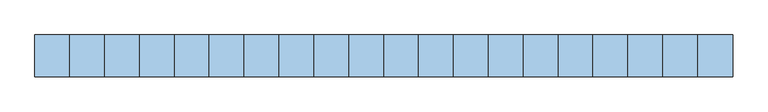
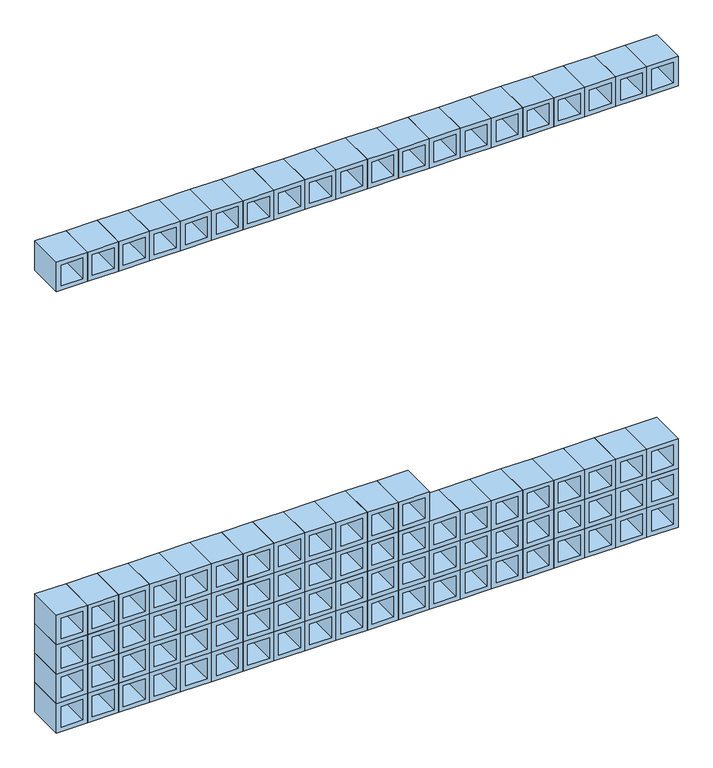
"""IFC4 building model written with IfcOpenShell, lengths in millimetres: window geometry, Concrete_Cobog_Hollow_block_14694 : Cobogó 2,00 x 1,60 m."""

from ifc_helpers import new_model, si_unit, frame, origin, place, context, project, spatial, polyline, outline, extrude, source, transform, mapped, element, save


def window_1a4b773a(model_context):
    return source(origin(), model_context, "Body", "SweptSolid", [
        extrude(outline(polyline([(1100.0, 200.0), (1200.0, 200.0), (1200.0, 100.0), (1100.0, 100.0), (1100.0, 200.0)]), holes=[polyline([(1185.0, 115.0), (1185.0, 185.0), (1115.0, 185.0), (1115.0, 115.0), (1185.0, 115.0)])]), frame((0.0, -60.0, 0.0), z_axis=(0.0, 1.0, 0.0), x_axis=(0.0, 0.0, 1.0)), (0.0, 0.0, 1.0), 120.0),
        extrude(outline(polyline([(1100.0, 100.0), (1200.0, 100.0), (1200.0, 0.0), (1100.0, 0.0), (1100.0, 100.0)]), holes=[polyline([(1185.0, 15.0), (1185.0, 85.0), (1115.0, 85.0), (1115.0, 15.0), (1185.0, 15.0)])]), frame((0.0, -60.0, 0.0), z_axis=(0.0, 1.0, 0.0), x_axis=(0.0, 0.0, 1.0)), (0.0, 0.0, 1.0), 120.0),
        extrude(outline(polyline([(1100.0, 0.0), (1200.0, 0.0), (1200.0, -100.0), (1100.0, -100.0), (1100.0, 0.0)]), holes=[polyline([(1185.0, -85.0), (1185.0, -15.0), (1115.0, -15.0), (1115.0, -85.0), (1185.0, -85.0)])]), frame((0.0, -60.0, 0.0), z_axis=(0.0, 1.0, 0.0), x_axis=(0.0, 0.0, 1.0)), (0.0, 0.0, 1.0), 120.0),
        extrude(outline(polyline([(1100.0, -100.0), (1200.0, -100.0), (1200.0, -200.0), (1100.0, -200.0), (1100.0, -100.0)]), holes=[polyline([(1185.0, -185.0), (1185.0, -115.0), (1115.0, -115.0), (1115.0, -185.0), (1185.0, -185.0)])]), frame((0.0, -60.0, 0.0), z_axis=(0.0, 1.0, 0.0), x_axis=(0.0, 0.0, 1.0)), (0.0, 0.0, 1.0), 120.0),
        extrude(outline(polyline([(1100.0, -200.0), (1200.0, -200.0), (1200.0, -300.0), (1100.0, -300.0), (1100.0, -200.0)]), holes=[polyline([(1185.0, -285.0), (1185.0, -215.0), (1115.0, -215.0), (1115.0, -285.0), (1185.0, -285.0)])]), frame((0.0, -60.0, 0.0), z_axis=(0.0, 1.0, 0.0), x_axis=(0.0, 0.0, 1.0)), (0.0, 0.0, 1.0), 120.0),
        extrude(outline(polyline([(1100.0, -300.0), (1200.0, -300.0), (1200.0, -400.0), (1100.0, -400.0), (1100.0, -300.0)]), holes=[polyline([(1185.0, -385.0), (1185.0, -315.0), (1115.0, -315.0), (1115.0, -385.0), (1185.0, -385.0)])]), frame((0.0, -60.0, 0.0), z_axis=(0.0, 1.0, 0.0), x_axis=(0.0, 0.0, 1.0)), (0.0, 0.0, 1.0), 120.0),
        extrude(outline(polyline([(1100.0, -400.0), (1200.0, -400.0), (1200.0, -500.0), (1100.0, -500.0), (1100.0, -400.0)]), holes=[polyline([(1185.0, -485.0), (1185.0, -415.0), (1115.0, -415.0), (1115.0, -485.0), (1185.0, -485.0)])]), frame((0.0, -60.0, 0.0), z_axis=(0.0, 1.0, 0.0), x_axis=(0.0, 0.0, 1.0)), (0.0, 0.0, 1.0), 120.0),
        extrude(outline(polyline([(1100.0, -500.0), (1200.0, -500.0), (1200.0, -600.0), (1100.0, -600.0), (1100.0, -500.0)]), holes=[polyline([(1185.0, -585.0), (1185.0, -515.0), (1115.0, -515.0), (1115.0, -585.0), (1185.0, -585.0)])]), frame((0.0, -60.0, 0.0), z_axis=(0.0, 1.0, 0.0), x_axis=(0.0, 0.0, 1.0)), (0.0, 0.0, 1.0), 120.0),
        extrude(outline(polyline([(1100.0, -600.0), (1200.0, -600.0), (1200.0, -700.0), (1100.0, -700.0), (1100.0, -600.0)]), holes=[polyline([(1185.0, -685.0), (1185.0, -615.0), (1115.0, -615.0), (1115.0, -685.0), (1185.0, -685.0)])]), frame((0.0, -60.0, 0.0), z_axis=(0.0, 1.0, 0.0), x_axis=(0.0, 0.0, 1.0)), (0.0, 0.0, 1.0), 120.0),
        extrude(outline(polyline([(1100.0, -700.0), (1200.0, -700.0), (1200.0, -800.0), (1100.0, -800.0), (1100.0, -700.0)]), holes=[polyline([(1185.0, -785.0), (1185.0, -715.0), (1115.0, -715.0), (1115.0, -785.0), (1185.0, -785.0)])]), frame((0.0, -60.0, 0.0), z_axis=(0.0, 1.0, 0.0), x_axis=(0.0, 0.0, 1.0)), (0.0, 0.0, 1.0), 120.0),
        extrude(outline(polyline([(1100.0, -800.0), (1200.0, -800.0), (1200.0, -900.0), (1100.0, -900.0), (1100.0, -800.0)]), holes=[polyline([(1185.0, -885.0), (1185.0, -815.0), (1115.0, -815.0), (1115.0, -885.0), (1185.0, -885.0)])]), frame((0.0, -60.0, 0.0), z_axis=(0.0, 1.0, 0.0), x_axis=(0.0, 0.0, 1.0)), (0.0, 0.0, 1.0), 120.0),
        extrude(outline(polyline([(1100.0, -900.0), (1200.0, -900.0), (1200.0, -1000.0), (1100.0, -1000.0), (1100.0, -900.0)]), holes=[polyline([(1185.0, -985.0), (1185.0, -915.0), (1115.0, -915.0), (1115.0, -985.0), (1185.0, -985.0)])]), frame((0.0, -60.0, 0.0), z_axis=(0.0, 1.0, 0.0), x_axis=(0.0, 0.0, 1.0)), (0.0, 0.0, 1.0), 120.0),
        extrude(outline(polyline([(1000.0, 1000.0), (1100.0, 1000.0), (1100.0, 900.0), (1000.0, 900.0), (1000.0, 1000.0)]), holes=[polyline([(1085.0, 915.0), (1085.0, 985.0), (1015.0, 985.0), (1015.0, 915.0), (1085.0, 915.0)])]), frame((0.0, -60.0, 0.0), z_axis=(0.0, 1.0, 0.0), x_axis=(0.0, 0.0, 1.0)), (0.0, 0.0, 1.0), 120.0),
        extrude(outline(polyline([(1000.0, 900.0), (1100.0, 900.0), (1100.0, 800.0), (1000.0, 800.0), (1000.0, 900.0)]), holes=[polyline([(1085.0, 815.0), (1085.0, 885.0), (1015.0, 885.0), (1015.0, 815.0), (1085.0, 815.0)])]), frame((0.0, -60.0, 0.0), z_axis=(0.0, 1.0, 0.0), x_axis=(0.0, 0.0, 1.0)), (0.0, 0.0, 1.0), 120.0),
        extrude(outline(polyline([(1000.0, 800.0), (1100.0, 800.0), (1100.0, 700.0), (1000.0, 700.0), (1000.0, 800.0)]), holes=[polyline([(1085.0, 715.0), (1085.0, 785.0), (1015.0, 785.0), (1015.0, 715.0), (1085.0, 715.0)])]), frame((0.0, -60.0, 0.0), z_axis=(0.0, 1.0, 0.0), x_axis=(0.0, 0.0, 1.0)), (0.0, 0.0, 1.0), 120.0),
        extrude(outline(polyline([(1000.0, 700.0), (1100.0, 700.0), (1100.0, 600.0), (1000.0, 600.0), (1000.0, 700.0)]), holes=[polyline([(1085.0, 615.0), (1085.0, 685.0), (1015.0, 685.0), (1015.0, 615.0), (1085.0, 615.0)])]), frame((0.0, -60.0, 0.0), z_axis=(0.0, 1.0, 0.0), x_axis=(0.0, 0.0, 1.0)), (0.0, 0.0, 1.0), 120.0),
        extrude(outline(polyline([(1000.0, 600.0), (1100.0, 600.0), (1100.0, 500.0), (1000.0, 500.0), (1000.0, 600.0)]), holes=[polyline([(1085.0, 515.0), (1085.0, 585.0), (1015.0, 585.0), (1015.0, 515.0), (1085.0, 515.0)])]), frame((0.0, -60.0, 0.0), z_axis=(0.0, 1.0, 0.0), x_axis=(0.0, 0.0, 1.0)), (0.0, 0.0, 1.0), 120.0),
        extrude(outline(polyline([(1000.0, 500.0), (1100.0, 500.0), (1100.0, 400.0), (1000.0, 400.0), (1000.0, 500.0)]), holes=[polyline([(1085.0, 415.0), (1085.0, 485.0), (1015.0, 485.0), (1015.0, 415.0), (1085.0, 415.0)])]), frame((0.0, -60.0, 0.0), z_axis=(0.0, 1.0, 0.0), x_axis=(0.0, 0.0, 1.0)), (0.0, 0.0, 1.0), 120.0),
        extrude(outline(polyline([(1000.0, 400.0), (1100.0, 400.0), (1100.0, 300.0), (1000.0, 300.0), (1000.0, 400.0)]), holes=[polyline([(1085.0, 315.0), (1085.0, 385.0), (1015.0, 385.0), (1015.0, 315.0), (1085.0, 315.0)])]), frame((0.0, -60.0, 0.0), z_axis=(0.0, 1.0, 0.0), x_axis=(0.0, 0.0, 1.0)), (0.0, 0.0, 1.0), 120.0),
        extrude(outline(polyline([(1000.0, 300.0), (1100.0, 300.0), (1100.0, 200.0), (1000.0, 200.0), (1000.0, 300.0)]), holes=[polyline([(1085.0, 215.0), (1085.0, 285.0), (1015.0, 285.0), (1015.0, 215.0), (1085.0, 215.0)])]), frame((0.0, -60.0, 0.0), z_axis=(0.0, 1.0, 0.0), x_axis=(0.0, 0.0, 1.0)), (0.0, 0.0, 1.0), 120.0),
        extrude(outline(polyline([(1000.0, 200.0), (1100.0, 200.0), (1100.0, 100.0), (1000.0, 100.0), (1000.0, 200.0)]), holes=[polyline([(1085.0, 115.0), (1085.0, 185.0), (1015.0, 185.0), (1015.0, 115.0), (1085.0, 115.0)])]), frame((0.0, -60.0, 0.0), z_axis=(0.0, 1.0, 0.0), x_axis=(0.0, 0.0, 1.0)), (0.0, 0.0, 1.0), 120.0),
        extrude(outline(polyline([(1000.0, 100.0), (1100.0, 100.0), (1100.0, 0.0), (1000.0, 0.0), (1000.0, 100.0)]), holes=[polyline([(1085.0, 15.0), (1085.0, 85.0), (1015.0, 85.0), (1015.0, 15.0), (1085.0, 15.0)])]), frame((0.0, -60.0, 0.0), z_axis=(0.0, 1.0, 0.0), x_axis=(0.0, 0.0, 1.0)), (0.0, 0.0, 1.0), 120.0),
        extrude(outline(polyline([(1000.0, 0.0), (1100.0, 0.0), (1100.0, -100.0), (1000.0, -100.0), (1000.0, 0.0)]), holes=[polyline([(1085.0, -85.0), (1085.0, -15.0), (1015.0, -15.0), (1015.0, -85.0), (1085.0, -85.0)])]), frame((0.0, -60.0, 0.0), z_axis=(0.0, 1.0, 0.0), x_axis=(0.0, 0.0, 1.0)), (0.0, 0.0, 1.0), 120.0),
        extrude(outline(polyline([(1000.0, -100.0), (1100.0, -100.0), (1100.0, -200.0), (1000.0, -200.0), (1000.0, -100.0)]), holes=[polyline([(1085.0, -185.0), (1085.0, -115.0), (1015.0, -115.0), (1015.0, -185.0), (1085.0, -185.0)])]), frame((0.0, -60.0, 0.0), z_axis=(0.0, 1.0, 0.0), x_axis=(0.0, 0.0, 1.0)), (0.0, 0.0, 1.0), 120.0),
        extrude(outline(polyline([(1000.0, -200.0), (1100.0, -200.0), (1100.0, -300.0), (1000.0, -300.0), (1000.0, -200.0)]), holes=[polyline([(1085.0, -285.0), (1085.0, -215.0), (1015.0, -215.0), (1015.0, -285.0), (1085.0, -285.0)])]), frame((0.0, -60.0, 0.0), z_axis=(0.0, 1.0, 0.0), x_axis=(0.0, 0.0, 1.0)), (0.0, 0.0, 1.0), 120.0),
        extrude(outline(polyline([(1000.0, -300.0), (1100.0, -300.0), (1100.0, -400.0), (1000.0, -400.0), (1000.0, -300.0)]), holes=[polyline([(1085.0, -385.0), (1085.0, -315.0), (1015.0, -315.0), (1015.0, -385.0), (1085.0, -385.0)])]), frame((0.0, -60.0, 0.0), z_axis=(0.0, 1.0, 0.0), x_axis=(0.0, 0.0, 1.0)), (0.0, 0.0, 1.0), 120.0),
        extrude(outline(polyline([(1000.0, -400.0), (1100.0, -400.0), (1100.0, -500.0), (1000.0, -500.0), (1000.0, -400.0)]), holes=[polyline([(1085.0, -485.0), (1085.0, -415.0), (1015.0, -415.0), (1015.0, -485.0), (1085.0, -485.0)])]), frame((0.0, -60.0, 0.0), z_axis=(0.0, 1.0, 0.0), x_axis=(0.0, 0.0, 1.0)), (0.0, 0.0, 1.0), 120.0),
        extrude(outline(polyline([(1000.0, -500.0), (1100.0, -500.0), (1100.0, -600.0), (1000.0, -600.0), (1000.0, -500.0)]), holes=[polyline([(1085.0, -585.0), (1085.0, -515.0), (1015.0, -515.0), (1015.0, -585.0), (1085.0, -585.0)])]), frame((0.0, -60.0, 0.0), z_axis=(0.0, 1.0, 0.0), x_axis=(0.0, 0.0, 1.0)), (0.0, 0.0, 1.0), 120.0),
        extrude(outline(polyline([(1000.0, -600.0), (1100.0, -600.0), (1100.0, -700.0), (1000.0, -700.0), (1000.0, -600.0)]), holes=[polyline([(1085.0, -685.0), (1085.0, -615.0), (1015.0, -615.0), (1015.0, -685.0), (1085.0, -685.0)])]), frame((0.0, -60.0, 0.0), z_axis=(0.0, 1.0, 0.0), x_axis=(0.0, 0.0, 1.0)), (0.0, 0.0, 1.0), 120.0),
        extrude(outline(polyline([(1000.0, -700.0), (1100.0, -700.0), (1100.0, -800.0), (1000.0, -800.0), (1000.0, -700.0)]), holes=[polyline([(1085.0, -785.0), (1085.0, -715.0), (1015.0, -715.0), (1015.0, -785.0), (1085.0, -785.0)])]), frame((0.0, -60.0, 0.0), z_axis=(0.0, 1.0, 0.0), x_axis=(0.0, 0.0, 1.0)), (0.0, 0.0, 1.0), 120.0),
        extrude(outline(polyline([(1000.0, -800.0), (1100.0, -800.0), (1100.0, -900.0), (1000.0, -900.0), (1000.0, -800.0)]), holes=[polyline([(1085.0, -885.0), (1085.0, -815.0), (1015.0, -815.0), (1015.0, -885.0), (1085.0, -885.0)])]), frame((0.0, -60.0, 0.0), z_axis=(0.0, 1.0, 0.0), x_axis=(0.0, 0.0, 1.0)), (0.0, 0.0, 1.0), 120.0),
        extrude(outline(polyline([(1000.0, -900.0), (1100.0, -900.0), (1100.0, -1000.0), (1000.0, -1000.0), (1000.0, -900.0)]), holes=[polyline([(1085.0, -985.0), (1085.0, -915.0), (1015.0, -915.0), (1015.0, -985.0), (1085.0, -985.0)])]), frame((0.0, -60.0, 0.0), z_axis=(0.0, 1.0, 0.0), x_axis=(0.0, 0.0, 1.0)), (0.0, 0.0, 1.0), 120.0),
        extrude(outline(polyline([(900.0, 1000.0), (1000.0, 1000.0), (1000.0, 900.0), (900.0, 900.0), (900.0, 1000.0)]), holes=[polyline([(985.0, 915.0), (985.0, 985.0), (915.0, 985.0), (915.0, 915.0), (985.0, 915.0)])]), frame((0.0, -60.0, 0.0), z_axis=(0.0, 1.0, 0.0), x_axis=(0.0, 0.0, 1.0)), (0.0, 0.0, 1.0), 120.0),
        extrude(outline(polyline([(900.0, 900.0), (1000.0, 900.0), (1000.0, 800.0), (900.0, 800.0), (900.0, 900.0)]), holes=[polyline([(985.0, 815.0), (985.0, 885.0), (915.0, 885.0), (915.0, 815.0), (985.0, 815.0)])]), frame((0.0, -60.0, 0.0), z_axis=(0.0, 1.0, 0.0), x_axis=(0.0, 0.0, 1.0)), (0.0, 0.0, 1.0), 120.0),
        extrude(outline(polyline([(900.0, 800.0), (1000.0, 800.0), (1000.0, 700.0), (900.0, 700.0), (900.0, 800.0)]), holes=[polyline([(985.0, 715.0), (985.0, 785.0), (915.0, 785.0), (915.0, 715.0), (985.0, 715.0)])]), frame((0.0, -60.0, 0.0), z_axis=(0.0, 1.0, 0.0), x_axis=(0.0, 0.0, 1.0)), (0.0, 0.0, 1.0), 120.0),
        extrude(outline(polyline([(900.0, 700.0), (1000.0, 700.0), (1000.0, 600.0), (900.0, 600.0), (900.0, 700.0)]), holes=[polyline([(985.0, 615.0), (985.0, 685.0), (915.0, 685.0), (915.0, 615.0), (985.0, 615.0)])]), frame((0.0, -60.0, 0.0), z_axis=(0.0, 1.0, 0.0), x_axis=(0.0, 0.0, 1.0)), (0.0, 0.0, 1.0), 120.0),
        extrude(outline(polyline([(900.0, 600.0), (1000.0, 600.0), (1000.0, 500.0), (900.0, 500.0), (900.0, 600.0)]), holes=[polyline([(985.0, 515.0), (985.0, 585.0), (915.0, 585.0), (915.0, 515.0), (985.0, 515.0)])]), frame((0.0, -60.0, 0.0), z_axis=(0.0, 1.0, 0.0), x_axis=(0.0, 0.0, 1.0)), (0.0, 0.0, 1.0), 120.0),
        extrude(outline(polyline([(900.0, 500.0), (1000.0, 500.0), (1000.0, 400.0), (900.0, 400.0), (900.0, 500.0)]), holes=[polyline([(985.0, 415.0), (985.0, 485.0), (915.0, 485.0), (915.0, 415.0), (985.0, 415.0)])]), frame((0.0, -60.0, 0.0), z_axis=(0.0, 1.0, 0.0), x_axis=(0.0, 0.0, 1.0)), (0.0, 0.0, 1.0), 120.0),
        extrude(outline(polyline([(900.0, 400.0), (1000.0, 400.0), (1000.0, 300.0), (900.0, 300.0), (900.0, 400.0)]), holes=[polyline([(985.0, 315.0), (985.0, 385.0), (915.0, 385.0), (915.0, 315.0), (985.0, 315.0)])]), frame((0.0, -60.0, 0.0), z_axis=(0.0, 1.0, 0.0), x_axis=(0.0, 0.0, 1.0)), (0.0, 0.0, 1.0), 120.0),
        extrude(outline(polyline([(900.0, 300.0), (1000.0, 300.0), (1000.0, 200.0), (900.0, 200.0), (900.0, 300.0)]), holes=[polyline([(985.0, 215.0), (985.0, 285.0), (915.0, 285.0), (915.0, 215.0), (985.0, 215.0)])]), frame((0.0, -60.0, 0.0), z_axis=(0.0, 1.0, 0.0), x_axis=(0.0, 0.0, 1.0)), (0.0, 0.0, 1.0), 120.0),
        extrude(outline(polyline([(900.0, 200.0), (1000.0, 200.0), (1000.0, 100.0), (900.0, 100.0), (900.0, 200.0)]), holes=[polyline([(985.0, 115.0), (985.0, 185.0), (915.0, 185.0), (915.0, 115.0), (985.0, 115.0)])]), frame((0.0, -60.0, 0.0), z_axis=(0.0, 1.0, 0.0), x_axis=(0.0, 0.0, 1.0)), (0.0, 0.0, 1.0), 120.0),
        extrude(outline(polyline([(900.0, 100.0), (1000.0, 100.0), (1000.0, 0.0), (900.0, 0.0), (900.0, 100.0)]), holes=[polyline([(985.0, 15.0), (985.0, 85.0), (915.0, 85.0), (915.0, 15.0), (985.0, 15.0)])]), frame((0.0, -60.0, 0.0), z_axis=(0.0, 1.0, 0.0), x_axis=(0.0, 0.0, 1.0)), (0.0, 0.0, 1.0), 120.0),
        extrude(outline(polyline([(900.0, 0.0), (1000.0, 0.0), (1000.0, -100.0), (900.0, -100.0), (900.0, 0.0)]), holes=[polyline([(985.0, -85.0), (985.0, -15.0), (915.0, -15.0), (915.0, -85.0), (985.0, -85.0)])]), frame((0.0, -60.0, 0.0), z_axis=(0.0, 1.0, 0.0), x_axis=(0.0, 0.0, 1.0)), (0.0, 0.0, 1.0), 120.0),
        extrude(outline(polyline([(900.0, -100.0), (1000.0, -100.0), (1000.0, -200.0), (900.0, -200.0), (900.0, -100.0)]), holes=[polyline([(985.0, -185.0), (985.0, -115.0), (915.0, -115.0), (915.0, -185.0), (985.0, -185.0)])]), frame((0.0, -60.0, 0.0), z_axis=(0.0, 1.0, 0.0), x_axis=(0.0, 0.0, 1.0)), (0.0, 0.0, 1.0), 120.0),
        extrude(outline(polyline([(900.0, -200.0), (1000.0, -200.0), (1000.0, -300.0), (900.0, -300.0), (900.0, -200.0)]), holes=[polyline([(985.0, -285.0), (985.0, -215.0), (915.0, -215.0), (915.0, -285.0), (985.0, -285.0)])]), frame((0.0, -60.0, 0.0), z_axis=(0.0, 1.0, 0.0), x_axis=(0.0, 0.0, 1.0)), (0.0, 0.0, 1.0), 120.0),
        extrude(outline(polyline([(900.0, -300.0), (1000.0, -300.0), (1000.0, -400.0), (900.0, -400.0), (900.0, -300.0)]), holes=[polyline([(985.0, -385.0), (985.0, -315.0), (915.0, -315.0), (915.0, -385.0), (985.0, -385.0)])]), frame((0.0, -60.0, 0.0), z_axis=(0.0, 1.0, 0.0), x_axis=(0.0, 0.0, 1.0)), (0.0, 0.0, 1.0), 120.0),
        extrude(outline(polyline([(900.0, -400.0), (1000.0, -400.0), (1000.0, -500.0), (900.0, -500.0), (900.0, -400.0)]), holes=[polyline([(985.0, -485.0), (985.0, -415.0), (915.0, -415.0), (915.0, -485.0), (985.0, -485.0)])]), frame((0.0, -60.0, 0.0), z_axis=(0.0, 1.0, 0.0), x_axis=(0.0, 0.0, 1.0)), (0.0, 0.0, 1.0), 120.0),
        extrude(outline(polyline([(900.0, -500.0), (1000.0, -500.0), (1000.0, -600.0), (900.0, -600.0), (900.0, -500.0)]), holes=[polyline([(985.0, -585.0), (985.0, -515.0), (915.0, -515.0), (915.0, -585.0), (985.0, -585.0)])]), frame((0.0, -60.0, 0.0), z_axis=(0.0, 1.0, 0.0), x_axis=(0.0, 0.0, 1.0)), (0.0, 0.0, 1.0), 120.0),
        extrude(outline(polyline([(900.0, -600.0), (1000.0, -600.0), (1000.0, -700.0), (900.0, -700.0), (900.0, -600.0)]), holes=[polyline([(985.0, -685.0), (985.0, -615.0), (915.0, -615.0), (915.0, -685.0), (985.0, -685.0)])]), frame((0.0, -60.0, 0.0), z_axis=(0.0, 1.0, 0.0), x_axis=(0.0, 0.0, 1.0)), (0.0, 0.0, 1.0), 120.0),
        extrude(outline(polyline([(900.0, -700.0), (1000.0, -700.0), (1000.0, -800.0), (900.0, -800.0), (900.0, -700.0)]), holes=[polyline([(985.0, -785.0), (985.0, -715.0), (915.0, -715.0), (915.0, -785.0), (985.0, -785.0)])]), frame((0.0, -60.0, 0.0), z_axis=(0.0, 1.0, 0.0), x_axis=(0.0, 0.0, 1.0)), (0.0, 0.0, 1.0), 120.0),
        extrude(outline(polyline([(900.0, -800.0), (1000.0, -800.0), (1000.0, -900.0), (900.0, -900.0), (900.0, -800.0)]), holes=[polyline([(985.0, -885.0), (985.0, -815.0), (915.0, -815.0), (915.0, -885.0), (985.0, -885.0)])]), frame((0.0, -60.0, 0.0), z_axis=(0.0, 1.0, 0.0), x_axis=(0.0, 0.0, 1.0)), (0.0, 0.0, 1.0), 120.0),
        extrude(outline(polyline([(900.0, -900.0), (1000.0, -900.0), (1000.0, -1000.0), (900.0, -1000.0), (900.0, -900.0)]), holes=[polyline([(985.0, -985.0), (985.0, -915.0), (915.0, -915.0), (915.0, -985.0), (985.0, -985.0)])]), frame((0.0, -60.0, 0.0), z_axis=(0.0, 1.0, 0.0), x_axis=(0.0, 0.0, 1.0)), (0.0, 0.0, 1.0), 120.0),
        extrude(outline(polyline([(2300.0, 1000.0), (2400.0, 1000.0), (2400.0, 900.0), (2300.0, 900.0), (2300.0, 1000.0)]), holes=[polyline([(2385.0, 915.0), (2385.0, 985.0), (2315.0, 985.0), (2315.0, 915.0), (2385.0, 915.0)])]), frame((0.0, -60.0, 0.0), z_axis=(0.0, 1.0, 0.0), x_axis=(0.0, 0.0, 1.0)), (0.0, 0.0, 1.0), 120.0),
        extrude(outline(polyline([(2300.0, 900.0), (2400.0, 900.0), (2400.0, 800.0), (2300.0, 800.0), (2300.0, 900.0)]), holes=[polyline([(2385.0, 815.0), (2385.0, 885.0), (2315.0, 885.0), (2315.0, 815.0), (2385.0, 815.0)])]), frame((0.0, -60.0, 0.0), z_axis=(0.0, 1.0, 0.0), x_axis=(0.0, 0.0, 1.0)), (0.0, 0.0, 1.0), 120.0),
        extrude(outline(polyline([(2300.0, 800.0), (2400.0, 800.0), (2400.0, 700.0), (2300.0, 700.0), (2300.0, 800.0)]), holes=[polyline([(2385.0, 715.0), (2385.0, 785.0), (2315.0, 785.0), (2315.0, 715.0), (2385.0, 715.0)])]), frame((0.0, -60.0, 0.0), z_axis=(0.0, 1.0, 0.0), x_axis=(0.0, 0.0, 1.0)), (0.0, 0.0, 1.0), 120.0),
        extrude(outline(polyline([(2300.0, 700.0), (2400.0, 700.0), (2400.0, 600.0), (2300.0, 600.0), (2300.0, 700.0)]), holes=[polyline([(2385.0, 615.0), (2385.0, 685.0), (2315.0, 685.0), (2315.0, 615.0), (2385.0, 615.0)])]), frame((0.0, -60.0, 0.0), z_axis=(0.0, 1.0, 0.0), x_axis=(0.0, 0.0, 1.0)), (0.0, 0.0, 1.0), 120.0),
        extrude(outline(polyline([(2300.0, 600.0), (2400.0, 600.0), (2400.0, 500.0), (2300.0, 500.0), (2300.0, 600.0)]), holes=[polyline([(2385.0, 515.0), (2385.0, 585.0), (2315.0, 585.0), (2315.0, 515.0), (2385.0, 515.0)])]), frame((0.0, -60.0, 0.0), z_axis=(0.0, 1.0, 0.0), x_axis=(0.0, 0.0, 1.0)), (0.0, 0.0, 1.0), 120.0),
        extrude(outline(polyline([(2300.0, 500.0), (2400.0, 500.0), (2400.0, 400.0), (2300.0, 400.0), (2300.0, 500.0)]), holes=[polyline([(2385.0, 415.0), (2385.0, 485.0), (2315.0, 485.0), (2315.0, 415.0), (2385.0, 415.0)])]), frame((0.0, -60.0, 0.0), z_axis=(0.0, 1.0, 0.0), x_axis=(0.0, 0.0, 1.0)), (0.0, 0.0, 1.0), 120.0),
        extrude(outline(polyline([(2300.0, 400.0), (2400.0, 400.0), (2400.0, 300.0), (2300.0, 300.0), (2300.0, 400.0)]), holes=[polyline([(2385.0, 315.0), (2385.0, 385.0), (2315.0, 385.0), (2315.0, 315.0), (2385.0, 315.0)])]), frame((0.0, -60.0, 0.0), z_axis=(0.0, 1.0, 0.0), x_axis=(0.0, 0.0, 1.0)), (0.0, 0.0, 1.0), 120.0),
        extrude(outline(polyline([(2300.0, 300.0), (2400.0, 300.0), (2400.0, 200.0), (2300.0, 200.0), (2300.0, 300.0)]), holes=[polyline([(2385.0, 215.0), (2385.0, 285.0), (2315.0, 285.0), (2315.0, 215.0), (2385.0, 215.0)])]), frame((0.0, -60.0, 0.0), z_axis=(0.0, 1.0, 0.0), x_axis=(0.0, 0.0, 1.0)), (0.0, 0.0, 1.0), 120.0),
        extrude(outline(polyline([(2300.0, 200.0), (2400.0, 200.0), (2400.0, 100.0), (2300.0, 100.0), (2300.0, 200.0)]), holes=[polyline([(2385.0, 115.0), (2385.0, 185.0), (2315.0, 185.0), (2315.0, 115.0), (2385.0, 115.0)])]), frame((0.0, -60.0, 0.0), z_axis=(0.0, 1.0, 0.0), x_axis=(0.0, 0.0, 1.0)), (0.0, 0.0, 1.0), 120.0),
        extrude(outline(polyline([(2300.0, 100.0), (2400.0, 100.0), (2400.0, 0.0), (2300.0, 0.0), (2300.0, 100.0)]), holes=[polyline([(2385.0, 15.0), (2385.0, 85.0), (2315.0, 85.0), (2315.0, 15.0), (2385.0, 15.0)])]), frame((0.0, -60.0, 0.0), z_axis=(0.0, 1.0, 0.0), x_axis=(0.0, 0.0, 1.0)), (0.0, 0.0, 1.0), 120.0),
        extrude(outline(polyline([(2300.0, 0.0), (2400.0, 0.0), (2400.0, -100.0), (2300.0, -100.0), (2300.0, 0.0)]), holes=[polyline([(2385.0, -85.0), (2385.0, -15.0), (2315.0, -15.0), (2315.0, -85.0), (2385.0, -85.0)])]), frame((0.0, -60.0, 0.0), z_axis=(0.0, 1.0, 0.0), x_axis=(0.0, 0.0, 1.0)), (0.0, 0.0, 1.0), 120.0),
        extrude(outline(polyline([(2300.0, -100.0), (2400.0, -100.0), (2400.0, -200.0), (2300.0, -200.0), (2300.0, -100.0)]), holes=[polyline([(2385.0, -185.0), (2385.0, -115.0), (2315.0, -115.0), (2315.0, -185.0), (2385.0, -185.0)])]), frame((0.0, -60.0, 0.0), z_axis=(0.0, 1.0, 0.0), x_axis=(0.0, 0.0, 1.0)), (0.0, 0.0, 1.0), 120.0),
        extrude(outline(polyline([(2300.0, -200.0), (2400.0, -200.0), (2400.0, -300.0), (2300.0, -300.0), (2300.0, -200.0)]), holes=[polyline([(2385.0, -285.0), (2385.0, -215.0), (2315.0, -215.0), (2315.0, -285.0), (2385.0, -285.0)])]), frame((0.0, -60.0, 0.0), z_axis=(0.0, 1.0, 0.0), x_axis=(0.0, 0.0, 1.0)), (0.0, 0.0, 1.0), 120.0),
        extrude(outline(polyline([(2300.0, -300.0), (2400.0, -300.0), (2400.0, -400.0), (2300.0, -400.0), (2300.0, -300.0)]), holes=[polyline([(2385.0, -385.0), (2385.0, -315.0), (2315.0, -315.0), (2315.0, -385.0), (2385.0, -385.0)])]), frame((0.0, -60.0, 0.0), z_axis=(0.0, 1.0, 0.0), x_axis=(0.0, 0.0, 1.0)), (0.0, 0.0, 1.0), 120.0),
        extrude(outline(polyline([(2300.0, -400.0), (2400.0, -400.0), (2400.0, -500.0), (2300.0, -500.0), (2300.0, -400.0)]), holes=[polyline([(2385.0, -485.0), (2385.0, -415.0), (2315.0, -415.0), (2315.0, -485.0), (2385.0, -485.0)])]), frame((0.0, -60.0, 0.0), z_axis=(0.0, 1.0, 0.0), x_axis=(0.0, 0.0, 1.0)), (0.0, 0.0, 1.0), 120.0),
        extrude(outline(polyline([(2300.0, -500.0), (2400.0, -500.0), (2400.0, -600.0), (2300.0, -600.0), (2300.0, -500.0)]), holes=[polyline([(2385.0, -585.0), (2385.0, -515.0), (2315.0, -515.0), (2315.0, -585.0), (2385.0, -585.0)])]), frame((0.0, -60.0, 0.0), z_axis=(0.0, 1.0, 0.0), x_axis=(0.0, 0.0, 1.0)), (0.0, 0.0, 1.0), 120.0),
        extrude(outline(polyline([(2300.0, -600.0), (2400.0, -600.0), (2400.0, -700.0), (2300.0, -700.0), (2300.0, -600.0)]), holes=[polyline([(2385.0, -685.0), (2385.0, -615.0), (2315.0, -615.0), (2315.0, -685.0), (2385.0, -685.0)])]), frame((0.0, -60.0, 0.0), z_axis=(0.0, 1.0, 0.0), x_axis=(0.0, 0.0, 1.0)), (0.0, 0.0, 1.0), 120.0),
        extrude(outline(polyline([(2300.0, -700.0), (2400.0, -700.0), (2400.0, -800.0), (2300.0, -800.0), (2300.0, -700.0)]), holes=[polyline([(2385.0, -785.0), (2385.0, -715.0), (2315.0, -715.0), (2315.0, -785.0), (2385.0, -785.0)])]), frame((0.0, -60.0, 0.0), z_axis=(0.0, 1.0, 0.0), x_axis=(0.0, 0.0, 1.0)), (0.0, 0.0, 1.0), 120.0),
        extrude(outline(polyline([(2300.0, -800.0), (2400.0, -800.0), (2400.0, -900.0), (2300.0, -900.0), (2300.0, -800.0)]), holes=[polyline([(2385.0, -885.0), (2385.0, -815.0), (2315.0, -815.0), (2315.0, -885.0), (2385.0, -885.0)])]), frame((0.0, -60.0, 0.0), z_axis=(0.0, 1.0, 0.0), x_axis=(0.0, 0.0, 1.0)), (0.0, 0.0, 1.0), 120.0),
        extrude(outline(polyline([(2300.0, -900.0), (2400.0, -900.0), (2400.0, -1000.0), (2300.0, -1000.0), (2300.0, -900.0)]), holes=[polyline([(2385.0, -985.0), (2385.0, -915.0), (2315.0, -915.0), (2315.0, -985.0), (2385.0, -985.0)])]), frame((0.0, -60.0, 0.0), z_axis=(0.0, 1.0, 0.0), x_axis=(0.0, 0.0, 1.0)), (0.0, 0.0, 1.0), 120.0),
        extrude(outline(polyline([(800.0, 1000.0), (900.0, 1000.0), (900.0, 900.0), (800.0, 900.0), (800.0, 1000.0)]), holes=[polyline([(885.0, 915.0), (885.0, 985.0), (815.0, 985.0), (815.0, 915.0), (885.0, 915.0)])]), frame((0.0, -60.0, 0.0), z_axis=(0.0, 1.0, 0.0), x_axis=(0.0, 0.0, 1.0)), (0.0, 0.0, 1.0), 120.0),
        extrude(outline(polyline([(800.0, 900.0), (900.0, 900.0), (900.0, 800.0), (800.0, 800.0), (800.0, 900.0)]), holes=[polyline([(885.0, 815.0), (885.0, 885.0), (815.0, 885.0), (815.0, 815.0), (885.0, 815.0)])]), frame((0.0, -60.0, 0.0), z_axis=(0.0, 1.0, 0.0), x_axis=(0.0, 0.0, 1.0)), (0.0, 0.0, 1.0), 120.0),
        extrude(outline(polyline([(800.0, 800.0), (900.0, 800.0), (900.0, 700.0), (800.0, 700.0), (800.0, 800.0)]), holes=[polyline([(885.0, 715.0), (885.0, 785.0), (815.0, 785.0), (815.0, 715.0), (885.0, 715.0)])]), frame((0.0, -60.0, 0.0), z_axis=(0.0, 1.0, 0.0), x_axis=(0.0, 0.0, 1.0)), (0.0, 0.0, 1.0), 120.0),
        extrude(outline(polyline([(800.0, 700.0), (900.0, 700.0), (900.0, 600.0), (800.0, 600.0), (800.0, 700.0)]), holes=[polyline([(885.0, 615.0), (885.0, 685.0), (815.0, 685.0), (815.0, 615.0), (885.0, 615.0)])]), frame((0.0, -60.0, 0.0), z_axis=(0.0, 1.0, 0.0), x_axis=(0.0, 0.0, 1.0)), (0.0, 0.0, 1.0), 120.0),
        extrude(outline(polyline([(800.0, 600.0), (900.0, 600.0), (900.0, 500.0), (800.0, 500.0), (800.0, 600.0)]), holes=[polyline([(885.0, 515.0), (885.0, 585.0), (815.0, 585.0), (815.0, 515.0), (885.0, 515.0)])]), frame((0.0, -60.0, 0.0), z_axis=(0.0, 1.0, 0.0), x_axis=(0.0, 0.0, 1.0)), (0.0, 0.0, 1.0), 120.0),
        extrude(outline(polyline([(800.0, 500.0), (900.0, 500.0), (900.0, 400.0), (800.0, 400.0), (800.0, 500.0)]), holes=[polyline([(885.0, 415.0), (885.0, 485.0), (815.0, 485.0), (815.0, 415.0), (885.0, 415.0)])]), frame((0.0, -60.0, 0.0), z_axis=(0.0, 1.0, 0.0), x_axis=(0.0, 0.0, 1.0)), (0.0, 0.0, 1.0), 120.0),
        extrude(outline(polyline([(800.0, 400.0), (900.0, 400.0), (900.0, 300.0), (800.0, 300.0), (800.0, 400.0)]), holes=[polyline([(885.0, 315.0), (885.0, 385.0), (815.0, 385.0), (815.0, 315.0), (885.0, 315.0)])]), frame((0.0, -60.0, 0.0), z_axis=(0.0, 1.0, 0.0), x_axis=(0.0, 0.0, 1.0)), (0.0, 0.0, 1.0), 120.0),
        extrude(outline(polyline([(800.0, 300.0), (900.0, 300.0), (900.0, 200.0), (800.0, 200.0), (800.0, 300.0)]), holes=[polyline([(885.0, 215.0), (885.0, 285.0), (815.0, 285.0), (815.0, 215.0), (885.0, 215.0)])]), frame((0.0, -60.0, 0.0), z_axis=(0.0, 1.0, 0.0), x_axis=(0.0, 0.0, 1.0)), (0.0, 0.0, 1.0), 120.0),
        extrude(outline(polyline([(800.0, 200.0), (900.0, 200.0), (900.0, 100.0), (800.0, 100.0), (800.0, 200.0)]), holes=[polyline([(885.0, 115.0), (885.0, 185.0), (815.0, 185.0), (815.0, 115.0), (885.0, 115.0)])]), frame((0.0, -60.0, 0.0), z_axis=(0.0, 1.0, 0.0), x_axis=(0.0, 0.0, 1.0)), (0.0, 0.0, 1.0), 120.0),
        extrude(outline(polyline([(800.0, 100.0), (900.0, 100.0), (900.0, 0.0), (800.0, 0.0), (800.0, 100.0)]), holes=[polyline([(885.0, 15.0), (885.0, 85.0), (815.0, 85.0), (815.0, 15.0), (885.0, 15.0)])]), frame((0.0, -60.0, 0.0), z_axis=(0.0, 1.0, 0.0), x_axis=(0.0, 0.0, 1.0)), (0.0, 0.0, 1.0), 120.0),
        extrude(outline(polyline([(800.0, 0.0), (900.0, 0.0), (900.0, -100.0), (800.0, -100.0), (800.0, 0.0)]), holes=[polyline([(885.0, -85.0), (885.0, -15.0), (815.0, -15.0), (815.0, -85.0), (885.0, -85.0)])]), frame((0.0, -60.0, 0.0), z_axis=(0.0, 1.0, 0.0), x_axis=(0.0, 0.0, 1.0)), (0.0, 0.0, 1.0), 120.0),
        extrude(outline(polyline([(800.0, -100.0), (900.0, -100.0), (900.0, -200.0), (800.0, -200.0), (800.0, -100.0)]), holes=[polyline([(885.0, -185.0), (885.0, -115.0), (815.0, -115.0), (815.0, -185.0), (885.0, -185.0)])]), frame((0.0, -60.0, 0.0), z_axis=(0.0, 1.0, 0.0), x_axis=(0.0, 0.0, 1.0)), (0.0, 0.0, 1.0), 120.0),
        extrude(outline(polyline([(800.0, -200.0), (900.0, -200.0), (900.0, -300.0), (800.0, -300.0), (800.0, -200.0)]), holes=[polyline([(885.0, -285.0), (885.0, -215.0), (815.0, -215.0), (815.0, -285.0), (885.0, -285.0)])]), frame((0.0, -60.0, 0.0), z_axis=(0.0, 1.0, 0.0), x_axis=(0.0, 0.0, 1.0)), (0.0, 0.0, 1.0), 120.0),
        extrude(outline(polyline([(800.0, -300.0), (900.0, -300.0), (900.0, -400.0), (800.0, -400.0), (800.0, -300.0)]), holes=[polyline([(885.0, -385.0), (885.0, -315.0), (815.0, -315.0), (815.0, -385.0), (885.0, -385.0)])]), frame((0.0, -60.0, 0.0), z_axis=(0.0, 1.0, 0.0), x_axis=(0.0, 0.0, 1.0)), (0.0, 0.0, 1.0), 120.0),
        extrude(outline(polyline([(800.0, -400.0), (900.0, -400.0), (900.0, -500.0), (800.0, -500.0), (800.0, -400.0)]), holes=[polyline([(885.0, -485.0), (885.0, -415.0), (815.0, -415.0), (815.0, -485.0), (885.0, -485.0)])]), frame((0.0, -60.0, 0.0), z_axis=(0.0, 1.0, 0.0), x_axis=(0.0, 0.0, 1.0)), (0.0, 0.0, 1.0), 120.0),
        extrude(outline(polyline([(800.0, -500.0), (900.0, -500.0), (900.0, -600.0), (800.0, -600.0), (800.0, -500.0)]), holes=[polyline([(885.0, -585.0), (885.0, -515.0), (815.0, -515.0), (815.0, -585.0), (885.0, -585.0)])]), frame((0.0, -60.0, 0.0), z_axis=(0.0, 1.0, 0.0), x_axis=(0.0, 0.0, 1.0)), (0.0, 0.0, 1.0), 120.0),
        extrude(outline(polyline([(800.0, -600.0), (900.0, -600.0), (900.0, -700.0), (800.0, -700.0), (800.0, -600.0)]), holes=[polyline([(885.0, -685.0), (885.0, -615.0), (815.0, -615.0), (815.0, -685.0), (885.0, -685.0)])]), frame((0.0, -60.0, 0.0), z_axis=(0.0, 1.0, 0.0), x_axis=(0.0, 0.0, 1.0)), (0.0, 0.0, 1.0), 120.0),
        extrude(outline(polyline([(800.0, -700.0), (900.0, -700.0), (900.0, -800.0), (800.0, -800.0), (800.0, -700.0)]), holes=[polyline([(885.0, -785.0), (885.0, -715.0), (815.0, -715.0), (815.0, -785.0), (885.0, -785.0)])]), frame((0.0, -60.0, 0.0), z_axis=(0.0, 1.0, 0.0), x_axis=(0.0, 0.0, 1.0)), (0.0, 0.0, 1.0), 120.0),
        extrude(outline(polyline([(800.0, -800.0), (900.0, -800.0), (900.0, -900.0), (800.0, -900.0), (800.0, -800.0)]), holes=[polyline([(885.0, -885.0), (885.0, -815.0), (815.0, -815.0), (815.0, -885.0), (885.0, -885.0)])]), frame((0.0, -60.0, 0.0), z_axis=(0.0, 1.0, 0.0), x_axis=(0.0, 0.0, 1.0)), (0.0, 0.0, 1.0), 120.0),
        extrude(outline(polyline([(800.0, -900.0), (900.0, -900.0), (900.0, -1000.0), (800.0, -1000.0), (800.0, -900.0)]), holes=[polyline([(885.0, -985.0), (885.0, -915.0), (815.0, -915.0), (815.0, -985.0), (885.0, -985.0)])]), frame((0.0, -60.0, 0.0), z_axis=(0.0, 1.0, 0.0), x_axis=(0.0, 0.0, 1.0)), (0.0, 0.0, 1.0), 120.0),
    ])


if __name__ == "__main__":
    model = new_model("IFC4")
    model_context = context("Model", 3, world=origin())
    ifc_project = project(units=[si_unit("LENGTHUNIT", "METRE", prefix="MILLI")], contexts=[model_context])
    site = spatial("IfcSite", under=ifc_project)
    building = spatial("IfcBuilding", under=site)
    placement = place(None, origin())
    window_shape = window_1a4b773a(model_context)
    element("IfcWindow", 1, ObjectType="Concrete_Cobog_Hollow_block_14694 : Cobogó 2,00 x 1,60 m", at=placement, inside=building, context=model_context, shape_type="MappedRepresentation", body=[
        mapped(window_shape, transform((0.0, 0.0, 0.0), x_axis=(1.0, 0.0, 0.0), y_axis=(0.0, 1.0, 0.0), z_axis=(0.0, 0.0, 1.0))),
    ])
    save(model, "model.ifc")
